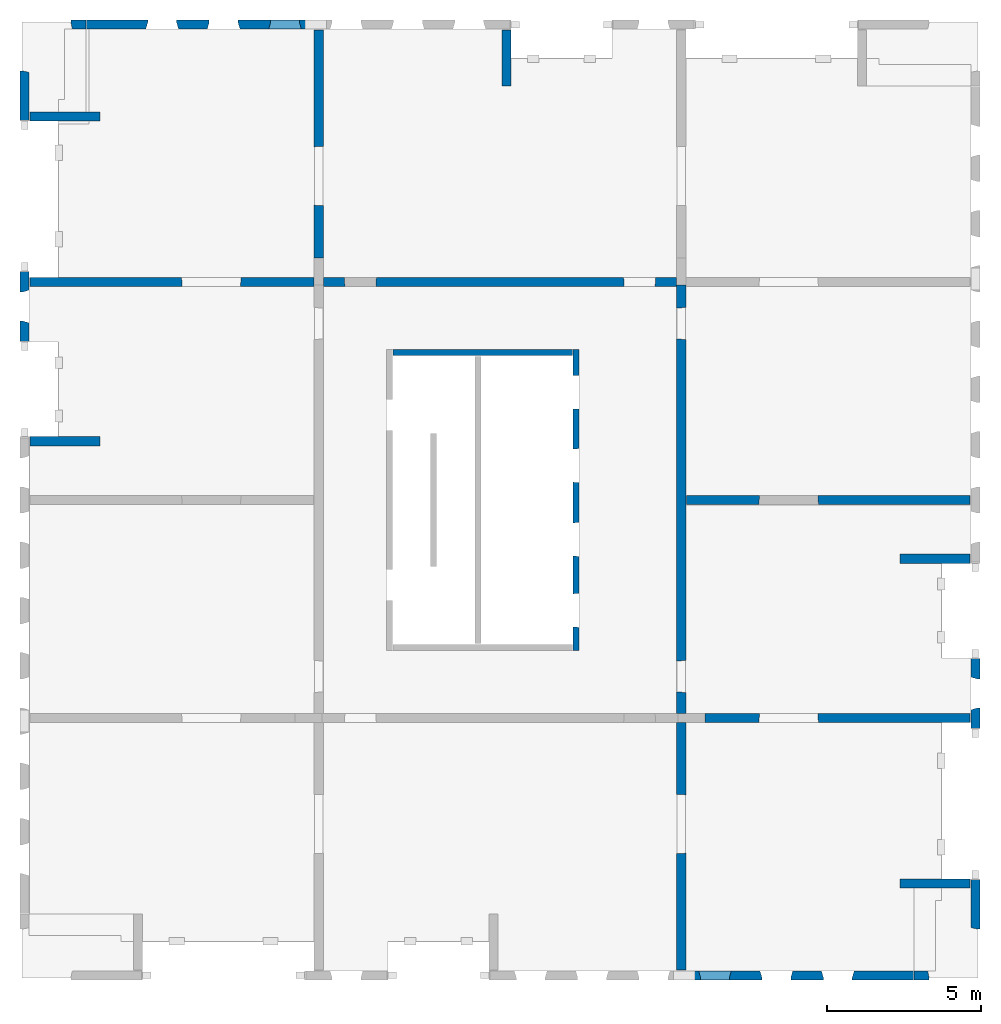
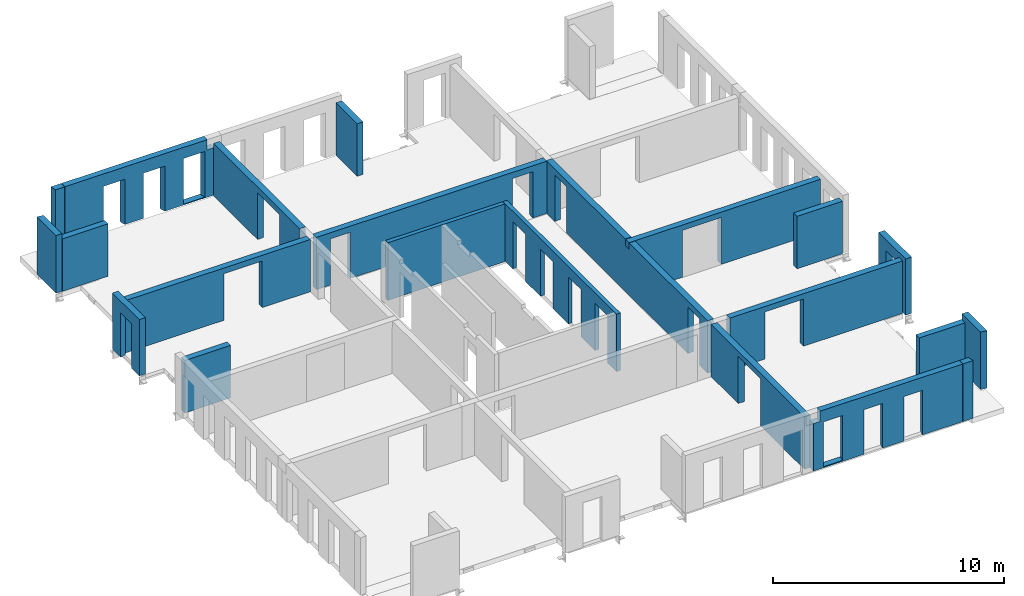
# One storey, part 3 of 5: 22 walls, 29 openings.
"""IFC2X3 building model written with IfcOpenShell, lengths in millimetres."""

from ifc_helpers import new_model, entity, si_unit, converted_unit, derived_unit, direction, frame, frame_2d, origin, origin_2d_with_axis, place, context, subcontext, project, spatial, rectangle, extrude, faceted_brep, material, layer, layer_set, layer_usage, type_object, element, save


model = new_model("IFC2X3")

# Units and contexts
model_context = context("Model", 3, precision=0.01, world=origin(), true_north=direction((6.12303176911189e-17, 1.0)))
body_context = subcontext(model_context, "Body", "Model", "MODEL_VIEW")
ifc_project = project(units=[si_unit("LENGTHUNIT", "METRE", prefix="MILLI"), si_unit("AREAUNIT", "SQUARE_METRE"), si_unit("VOLUMEUNIT", "CUBIC_METRE"), converted_unit("PLANEANGLEUNIT", "DEGREE", entity("IfcRatioMeasure", 0.0174532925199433), si_unit("PLANEANGLEUNIT", "RADIAN"), dimensions=[0, 0, 0, 0, 0, 0, 0]), si_unit("MASSUNIT", "GRAM", prefix="KILO"), derived_unit("MASSDENSITYUNIT", [(si_unit("MASSUNIT", "GRAM", prefix="KILO"), 1), (si_unit("LENGTHUNIT", "METRE"), -3)]), si_unit("TIMEUNIT", "SECOND"), si_unit("FREQUENCYUNIT", "HERTZ"), si_unit("THERMODYNAMICTEMPERATUREUNIT", "DEGREE_CELSIUS"), derived_unit("THERMALTRANSMITTANCEUNIT", [(si_unit("MASSUNIT", "GRAM", prefix="KILO"), 1), (si_unit("THERMODYNAMICTEMPERATUREUNIT", "KELVIN"), -1), (si_unit("TIMEUNIT", "SECOND"), -3)]), derived_unit("VOLUMETRICFLOWRATEUNIT", [(si_unit("LENGTHUNIT", "METRE"), 3), (si_unit("TIMEUNIT", "SECOND"), -1)]), si_unit("ELECTRICCURRENTUNIT", "AMPERE"), si_unit("ELECTRICVOLTAGEUNIT", "VOLT"), si_unit("POWERUNIT", "WATT"), si_unit("FORCEUNIT", "NEWTON", prefix="KILO"), si_unit("ILLUMINANCEUNIT", "LUX"), si_unit("LUMINOUSFLUXUNIT", "LUMEN"), si_unit("LUMINOUSINTENSITYUNIT", "CANDELA"), derived_unit("USERDEFINED", [(si_unit("MASSUNIT", "GRAM", prefix="KILO"), -1), (si_unit("LENGTHUNIT", "METRE"), -2), (si_unit("TIMEUNIT", "SECOND"), 3), (si_unit("LUMINOUSFLUXUNIT", "LUMEN"), 1)]), derived_unit("LINEARVELOCITYUNIT", [(si_unit("LENGTHUNIT", "METRE"), 1), (si_unit("TIMEUNIT", "SECOND"), -1)]), si_unit("PRESSUREUNIT", "PASCAL"), derived_unit("USERDEFINED", [(si_unit("LENGTHUNIT", "METRE"), -2), (si_unit("MASSUNIT", "GRAM", prefix="KILO"), 1), (si_unit("TIMEUNIT", "SECOND"), -2)])], contexts=[model_context])

# Site, building, storey
site_placement = place(None, origin())
site = spatial("IfcSite", under=ifc_project, at=site_placement, Name="Default", CompositionType="ELEMENT")
building_placement = place(site_placement, origin())
building = spatial("IfcBuilding", under=site, at=building_placement, Name="niet gebruiken", CompositionType="ELEMENT")
storey_placement = place(building_placement, frame((0.0, 0.0, 158760.0)))
storey = spatial("IfcBuildingStorey", under=building, at=storey_placement, Name="51 eenenvijftigste verdieping", CompositionType="ELEMENT", Elevation=158760.0)

# Wall, openings
ifc_material = material(Name="NLRS_f2_beton prefab")
ifc_layer_1 = layer(ifc_material, 200.0)
ifc_layer_set_1 = layer_set([ifc_layer_1], Name="Basic Wall:NLRS_22.21_WA_beton prefab d=200_gen")
ifc_layer_usage_1 = layer_usage(ifc_layer_set_1, "AXIS2", "NEGATIVE", 100.0)
wall_type_1 = type_object("IfcWallType", Name="Basic Wall:NLRS_22.21_WA_beton prefab d=200_gen", PredefinedType="STANDARD", material=ifc_layer_set_1)
wall_1_placement = place(storey_placement, frame((144230.0, 22400.0, -50.0), z_axis=(0.0, 0.0, 1.0), x_axis=(0.0, -1.0, 0.0)))
wall_1 = element("IfcWallStandardCase", 1, at=wall_1_placement, inside=storey, type_object=wall_type_1, material=ifc_layer_usage_1, Name="Basic Wall:NLRS_22.21_WA_beton prefab d=200_gen", ObjectType="Basic Wall:NLRS_22.21_WA_beton prefab d=200_gen", context=body_context, shape_type="SweptSolid", body=[
    extrude(rectangle(XDim=9800.0, YDim=199.999999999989, at=frame_2d((4900.0, -3.69482222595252e-13), x_axis=(-1.0, 0.0))), origin(), (0.0, 0.0, 1.0), 3040.0),
])
opening_1_placement = place(wall_1_placement, frame((9047.0, -100.0, 0.0)))
element("IfcOpeningElement", 2, at=opening_1_placement, cuts=wall_1, Name="Basic Wall:NLRS_22.21_WA_beton prefab d=200_gen", ObjectType="Opening", context=body_context, shape_type="Brep", body=[
    faceted_brep([(-1104.0, 200.0, 2502.0), (-1104.0, 200.0, 0.0), (-1092.0, 0.0, 0.0), (-1092.0, 0.0, 2490.0), (0.0, 200.0, 0.0), (-12.0, 0.0, 0.0), (-12.0, 0.0, 2490.0), (0.0, 200.0, 2502.0)], [[[0, 1, 2, 3]], [[1, 4, 5, 2]], [[6, 3, 2, 5]], [[7, 4, 1, 0]], [[7, 0, 3, 6]], [[4, 7, 6, 5]]]),
])
opening_2_placement = place(wall_1_placement, frame((6737.0, -100.0, 0.0)))
element("IfcOpeningElement", 3, at=opening_2_placement, cuts=wall_1, Name="Basic Wall:NLRS_22.21_WA_beton prefab d=200_gen", ObjectType="Opening", context=body_context, shape_type="Brep", body=[
    faceted_brep([(-1104.0, 200.0, 2502.0), (-1104.0, 200.0, 0.0), (-1092.0, 0.0, 0.0), (-1092.0, 0.0, 2490.0), (0.0, 200.0, 0.0), (-12.0, 0.0, 0.0), (-12.0, 0.0, 2490.0), (0.0, 200.0, 2502.0)], [[[0, 1, 2, 3]], [[1, 4, 5, 2]], [[6, 3, 2, 5]], [[7, 4, 1, 0]], [[7, 0, 3, 6]], [[4, 7, 6, 5]]]),
])
opening_3_placement = place(wall_1_placement, frame((4332.0, -100.0, 0.0)))
element("IfcOpeningElement", 4, at=opening_3_placement, cuts=wall_1, Name="Basic Wall:NLRS_22.21_WA_beton prefab d=200_gen", ObjectType="Opening", context=body_context, shape_type="Brep", body=[
    faceted_brep([(-1104.0, 200.0, 2502.0), (-1104.0, 200.0, 0.0), (-1092.0, 0.0, 0.0), (-1092.0, 0.0, 2490.0), (0.0, 200.0, 0.0), (-12.0, 0.0, 0.0), (-12.0, 0.0, 2490.0), (0.0, 200.0, 2502.0)], [[[0, 1, 2, 3]], [[1, 4, 5, 2]], [[6, 3, 2, 5]], [[7, 4, 1, 0]], [[7, 0, 3, 6]], [[4, 7, 6, 5]]]),
])
opening_4_placement = place(wall_1_placement, frame((1942.0, -100.0, 0.0)))
element("IfcOpeningElement", 5, at=opening_4_placement, cuts=wall_1, Name="Basic Wall:NLRS_22.21_WA_beton prefab d=200_gen", ObjectType="Opening", context=body_context, shape_type="Brep", body=[
    faceted_brep([(-1104.0, 200.0, 2502.0), (-1104.0, 200.0, 0.0), (-1092.0, 0.0, 0.0), (-1092.0, 0.0, 2490.0), (0.0, 200.0, 0.0), (-12.0, 0.0, 0.0), (-12.0, 0.0, 2490.0), (0.0, 200.0, 2502.0)], [[[0, 1, 2, 3]], [[1, 4, 5, 2]], [[6, 3, 2, 5]], [[7, 4, 1, 0]], [[7, 0, 3, 6]], [[4, 7, 6, 5]]]),
])

# Wall
ifc_layer_usage_2 = layer_usage(ifc_layer_set_1, "AXIS2", "NEGATIVE", 100.0)
wall_2_placement = place(storey_placement, frame((138270.0, 22300.0, -50.0)))
element("IfcWallStandardCase", 6, at=wall_2_placement, inside=storey, type_object=wall_type_1, material=ifc_layer_usage_2, Name="Basic Wall:NLRS_22.21_WA_beton prefab d=200_gen", ObjectType="Basic Wall:NLRS_22.21_WA_beton prefab d=200_gen", context=body_context, shape_type="SweptSolid", body=[
    extrude(rectangle(XDim=5839.99999999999, YDim=199.999999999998, at=frame_2d((2919.99999999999, -7.60280727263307e-13), x_axis=(-1.0, 0.0))), origin(), (0.0, 0.0, 1.0), 3040.0),
])

# Wall, opening
ifc_layer_2 = layer(ifc_material, 300.0)
ifc_layer_set_2 = layer_set([ifc_layer_2], Name="Basic Wall:NLRS_22.21_WA_beton prefab d=300_gen")
ifc_layer_usage_3 = layer_usage(ifc_layer_set_2, "AXIS2", "NEGATIVE", 150.0)
wall_type_2 = type_object("IfcWallType", Name="Basic Wall:NLRS_22.21_WA_beton prefab d=300_gen", PredefinedType="STANDARD", material=ifc_layer_set_2)
wall_3_placement = place(storey_placement, frame((147650.0, 10250.0, -60.0), z_axis=(0.0, 0.0, 1.0), x_axis=(0.0, -1.0, 0.0)))
wall_3 = element("IfcWallStandardCase", 7, at=wall_3_placement, inside=storey, type_object=wall_type_2, material=ifc_layer_usage_3, Name="Basic Wall:NLRS_22.21_WA_beton prefab d=300_gen", ObjectType="Basic Wall:NLRS_22.21_WA_beton prefab d=300_gen", context=body_context, shape_type="SweptSolid", body=[
    extrude(rectangle(XDim=8059.99999999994, YDim=300.000000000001, at=frame_2d((4029.99999999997, 3.69482222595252e-13), x_axis=(-1.0, 0.0))), origin(), (0.0, 0.0, 1.0), 2760.0),
])
opening_5_placement = place(wall_3_placement, frame((4268.0, -150.0, -10.0)))
element("IfcOpeningElement", 8, at=opening_5_placement, cuts=wall_3, Name="Basic Wall:NLRS_22.21_WA_beton prefab d=300_gen", ObjectType="Opening", context=body_context, shape_type="Brep", body=[
    faceted_brep([(-18.0, 300.0, 2470.0), (-18.0, 300.0, 0.0), (-1918.0, 300.0, 0.0), (-1918.0, 300.0, 2470.0), (0.0, 0.0, 2488.0), (-1936.0, 0.0, 2488.0), (-1936.0, 0.0, 0.0), (0.0, 0.0, 0.0)], [[[0, 1, 2, 3]], [[4, 5, 6, 7]], [[4, 0, 3, 5]], [[5, 3, 2, 6]], [[6, 2, 1, 7]], [[7, 1, 0, 4]]]),
])

ifc_layer_usage_4 = layer_usage(ifc_layer_set_2, "AXIS2", "NEGATIVE", 150.0)
wall_4_placement = place(storey_placement, frame((157230.0, 12360.0, -50.0), z_axis=(0.0, 0.0, 1.0), x_axis=(0.0, -1.0, 0.0)))
wall_4 = element("IfcWallStandardCase", 9, at=wall_4_placement, inside=storey, type_object=wall_type_2, material=ifc_layer_usage_4, Name="Basic Wall:NLRS_22.21_WA_beton prefab d=300_gen", ObjectType="Basic Wall:NLRS_22.21_WA_beton prefab d=300_gen", context=body_context, shape_type="SweptSolid", body=[
    extrude(rectangle(XDim=2320.00000000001, YDim=300.000000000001, at=frame_2d((1160.0, -8.38440428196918e-12), x_axis=(-1.0, 0.0))), origin(), (0.0, 0.0, 1.0), 2970.00000000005),
])
opening_6_placement = place(wall_4_placement, frame((1695.0, -150.0, -20.0)))
element("IfcOpeningElement", 10, at=opening_6_placement, cuts=wall_4, Name="Basic Wall:NLRS_22.21_WA_beton prefab d=300_gen", ObjectType="Opening", context=body_context, shape_type="Brep", body=[
    faceted_brep([(-1070.0, 0.0, 2405.0), (-1070.0, 0.0, 0.0), (0.0, 0.0, 0.0), (0.0, 0.0, 2405.0), (-65.0, 219.0, 2370.0), (-1005.0, 219.0, 2370.0), (-65.0, 219.0, 0.0), (-1005.0, 219.0, 0.0), (-1005.0, 300.0, 0.0), (-65.0, 300.0, 0.0), (-1005.0, 300.0, 2370.0), (-65.0, 300.0, 2370.0)], [[[0, 1, 2, 3]], [[3, 4, 5, 0]], [[2, 6, 4, 3]], [[1, 7, 8, 9, 6, 2]], [[0, 5, 7, 1]], [[10, 11, 9, 8]], [[10, 5, 4, 11]], [[11, 4, 6, 9]], [[8, 7, 5, 10]]]),
])

ifc_layer_usage_5 = layer_usage(ifc_layer_set_2, "AXIS2", "NEGATIVE", 150.0)
wall_5_placement = place(storey_placement, frame((126270.0, 22640.0, -50.0), z_axis=(0.0, 0.0, 1.0), x_axis=(0.0, 1.0, 0.0)))
wall_5 = element("IfcWallStandardCase", 11, at=wall_5_placement, inside=storey, type_object=wall_type_2, material=ifc_layer_usage_5, Name="Basic Wall:NLRS_22.21_WA_beton prefab d=300_gen", ObjectType="Basic Wall:NLRS_22.21_WA_beton prefab d=300_gen", context=body_context, shape_type="SweptSolid", body=[
    extrude(rectangle(XDim=2320.00000000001, YDim=300.000000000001, at=frame_2d((1160.0, -3.60955709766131e-12), x_axis=(-1.0, 0.0))), origin(), (0.0, 0.0, 1.0), 2970.00000000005),
])
opening_7_placement = place(wall_5_placement, frame((625.0, 150.0, -20.0)))
element("IfcOpeningElement", 12, at=opening_7_placement, cuts=wall_5, Name="Basic Wall:NLRS_22.21_WA_beton prefab d=300_gen", ObjectType="Opening", context=body_context, shape_type="Brep", body=[
    faceted_brep([(0.0, -300.0, 2405.0), (0.0, -300.0, 0.0), (1070.0, -300.0, 0.0), (1070.0, -300.0, 2405.0), (1005.0, -81.0, 2370.0), (65.0, -81.0, 2370.0), (1005.0, -81.0, 0.0), (65.0, -81.0, 0.0), (65.0, 0.0, 0.0), (1005.0, 0.0, 0.0), (65.0, 0.0, 2370.0), (1005.0, 0.0, 2370.0)], [[[0, 1, 2, 3]], [[3, 4, 5, 0]], [[2, 6, 4, 3]], [[1, 7, 8, 9, 6, 2]], [[0, 5, 7, 1]], [[10, 11, 9, 8]], [[10, 5, 4, 11]], [[11, 4, 6, 9]], [[8, 7, 5, 10]]]),
])

# Wall, openings
ifc_layer_usage_6 = layer_usage(ifc_layer_set_2, "AXIS2", "NEGATIVE", 150.0)
wall_6_placement = place(storey_placement, frame((157060.0, 17500.0, -60.0), z_axis=(0.0, 0.0, 1.0), x_axis=(-1.0, 0.0, 0.0)))
wall_6 = element("IfcWallStandardCase", 13, at=wall_6_placement, inside=storey, type_object=wall_type_2, material=ifc_layer_usage_6, Name="Basic Wall:NLRS_22.21_WA_beton prefab d=300_gen", ObjectType="Basic Wall:NLRS_22.21_WA_beton prefab d=300_gen", context=body_context, shape_type="SweptSolid", body=[
    extrude(rectangle(XDim=9559.9999999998, YDim=300.000000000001, at=frame_2d((4779.9999999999, -1.84741111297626e-13), x_axis=(-1.0, 0.0))), origin(), (0.0, 0.0, 1.0), 2760.0),
])
opening_8_placement = place(wall_6_placement, frame((6878.0, 150.0, -10.0)))
element("IfcOpeningElement", 14, at=opening_8_placement, cuts=wall_6, Name="Basic Wall:NLRS_22.21_WA_beton prefab d=300_gen", ObjectType="Opening", context=body_context, shape_type="Brep", body=[
    faceted_brep([(-18.0, -300.0, 2470.0), (-1918.0, -300.0, 2470.0), (-1918.0, -300.0, 0.0), (-18.0, -300.0, 0.0), (0.0, 0.0, 2488.0), (0.0, 0.0, 0.0), (-1936.0, 0.0, 0.0), (-1936.0, 0.0, 2488.0)], [[[0, 1, 2, 3]], [[4, 5, 6, 7]], [[4, 7, 1, 0]], [[7, 6, 2, 1]], [[6, 5, 3, 2]], [[5, 4, 0, 3]]]),
])
opening_9_placement = place(wall_6_placement, origin())
element("IfcOpeningElement", 15, at=opening_9_placement, cuts=wall_6, Name="Basic Wall:NLRS_22.21_WA_beton prefab d=300_gen", ObjectType="Opening", context=body_context, shape_type="SweptSolid", body=[
    extrude(rectangle(XDim=2429.99999999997, YDim=319.999999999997, at=frame_2d((0.0, 0.0), x_axis=(0.0, 1.0))), frame((9400.0, 150.0, 1215.0), z_axis=(0.0, -1.0, 0.0), x_axis=(1.0, 0.0, 0.0)), (0.0, 0.0, 1.0), 300.0),
])

# Wall, opening
ifc_layer_usage_7 = layer_usage(ifc_layer_set_2, "AXIS2", "NEGATIVE", 150.0)
wall_7_placement = place(storey_placement, frame((135700.0, 24600.0, -60.0), z_axis=(0.0, 0.0, 1.0), x_axis=(-1.0, 0.0, 0.0)))
wall_7 = element("IfcWallStandardCase", 16, at=wall_7_placement, inside=storey, type_object=wall_type_2, material=ifc_layer_usage_7, Name="Basic Wall:NLRS_22.21_WA_beton prefab d=300_gen", ObjectType="Basic Wall:NLRS_22.21_WA_beton prefab d=300_gen", context=body_context, shape_type="SweptSolid", body=[
    extrude(rectangle(XDim=9259.99999999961, YDim=300.000000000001, at=frame_2d((4629.99999999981, -2.41584530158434e-13), x_axis=(-1.0, 0.0))), origin(), (0.0, 0.0, 1.0), 2760.0),
])
opening_10_placement = place(wall_7_placement, frame((4318.0, 150.0, -10.0)))
element("IfcOpeningElement", 17, at=opening_10_placement, cuts=wall_7, Name="Basic Wall:NLRS_22.21_WA_beton prefab d=300_gen", ObjectType="Opening", context=body_context, shape_type="Brep", body=[
    faceted_brep([(-1918.0, 0.0, 2470.0), (-18.0, 0.0, 2470.0), (-18.0, 0.0, 0.0), (-1918.0, 0.0, 0.0), (-1936.0, -300.0, 2488.0), (-1936.0, -300.0, 0.0), (0.0, -300.0, 0.0), (0.0, -300.0, 2488.0)], [[[0, 1, 2, 3]], [[4, 5, 6, 7]], [[4, 7, 1, 0]], [[7, 6, 2, 1]], [[6, 5, 3, 2]], [[5, 4, 0, 3]]]),
])

ifc_layer_usage_8 = layer_usage(ifc_layer_set_2, "AXIS2", "NEGATIVE", 150.0)
wall_8_placement = place(storey_placement, frame((148430.0, 10400.0, -70.0)))
wall_8 = element("IfcWallStandardCase", 18, at=wall_8_placement, inside=storey, type_object=wall_type_2, material=ifc_layer_usage_8, Name="Basic Wall:NLRS_22.21_WA_beton prefab d=300_gen", ObjectType="Basic Wall:NLRS_22.21_WA_beton prefab d=300_gen", context=body_context, shape_type="SweptSolid", body=[
    extrude(rectangle(XDim=8630.00000000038, YDim=300.000000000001, at=frame_2d((4315.00000000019, 0.0), x_axis=(-1.0, 0.0))), origin(), (0.0, 0.0, 1.0), 2769.99999999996),
])
opening_11_placement = place(wall_8_placement, frame((1752.0, -150.0, 0.0)))
element("IfcOpeningElement", 19, at=opening_11_placement, cuts=wall_8, Name="Basic Wall:NLRS_22.21_WA_beton prefab d=300_gen", ObjectType="Opening", context=body_context, shape_type="Brep", body=[
    faceted_brep([(18.0, 300.0, 2470.0), (1918.0, 300.0, 2470.0), (1918.0, 300.0, 0.0), (18.0, 300.0, 0.0), (0.0, 0.0, 2488.0), (0.0, 0.0, 0.0), (1936.0, 0.0, 0.0), (1936.0, 0.0, 2488.0)], [[[0, 1, 2, 3]], [[4, 5, 6, 7]], [[4, 7, 1, 0]], [[7, 6, 2, 1]], [[6, 5, 3, 2]], [[5, 4, 0, 3]]]),
])

ifc_layer_usage_9 = layer_usage(ifc_layer_set_2, "AXIS2", "NEGATIVE", 150.0)
wall_9_placement = place(storey_placement, frame((135850.0, 25380.0, -70.0), z_axis=(0.0, 0.0, 1.0), x_axis=(0.0, 1.0, 0.0)))
wall_9 = element("IfcWallStandardCase", 20, at=wall_9_placement, inside=storey, type_object=wall_type_2, material=ifc_layer_usage_9, Name="Basic Wall:NLRS_22.21_WA_beton prefab d=300_gen", ObjectType="Basic Wall:NLRS_22.21_WA_beton prefab d=300_gen", context=body_context, shape_type="SweptSolid", body=[
    extrude(rectangle(XDim=7430.00000000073, YDim=300.000000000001, at=frame_2d((3715.00000000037, -5.62749846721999e-12), x_axis=(-1.0, 0.0))), origin(), (0.0, 0.0, 1.0), 2769.99999999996),
])
opening_12_placement = place(wall_9_placement, frame((1702.0, 150.0, 0.0)))
element("IfcOpeningElement", 21, at=opening_12_placement, cuts=wall_9, Name="Basic Wall:NLRS_22.21_WA_beton prefab d=300_gen", ObjectType="Opening", context=body_context, shape_type="Brep", body=[
    faceted_brep([(1918.0, 0.0, 2470.0), (1918.0, 0.0, 0.0), (18.0, 0.0, 0.0), (18.0, 0.0, 2470.0), (1936.0, -300.0, 2488.0), (0.0, -300.0, 2488.0), (0.0, -300.0, 0.0), (1936.0, -300.0, 0.0)], [[[0, 1, 2, 3]], [[4, 5, 6, 7]], [[4, 0, 3, 5]], [[5, 3, 2, 6]], [[6, 2, 1, 7]], [[7, 1, 0, 4]]]),
])

# Wall, openings
ifc_layer_usage_10 = layer_usage(ifc_layer_set_2, "AXIS2", "NEGATIVE", 150.0)
wall_10_placement = place(storey_placement, frame((147650.0, 24500.0, -60.0), z_axis=(0.0, 0.0, 1.0), x_axis=(0.0, -1.0, 0.0)))
wall_10 = element("IfcWallStandardCase", 22, at=wall_10_placement, inside=storey, type_object=wall_type_2, material=ifc_layer_usage_10, Name="Basic Wall:NLRS_22.21_WA_beton prefab d=300_gen", ObjectType="Basic Wall:NLRS_22.21_WA_beton prefab d=300_gen", context=body_context, shape_type="SweptSolid", body=[
    extrude(rectangle(XDim=13949.9999999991, YDim=300.000000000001, at=frame_2d((6974.99999999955, 4.2632564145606e-14), x_axis=(-1.0, 0.0))), origin(), (0.0, 0.0, 1.0), 2760.0),
])
opening_13_placement = place(wall_10_placement, frame((13268.0, -150.0, -10.0)))
element("IfcOpeningElement", 23, at=opening_13_placement, cuts=wall_10, Name="Basic Wall:NLRS_22.21_WA_beton prefab d=300_gen", ObjectType="Opening", context=body_context, shape_type="Brep", body=[
    faceted_brep([(-1042.0, 300.0, 2466.0), (-1042.0, 300.0, 0.0), (-1024.0, 0.0, 0.0), (-1024.0, 0.0, 2448.0), (0.0, 300.0, 0.0), (-18.0, 0.0, 0.0), (-18.0, 0.0, 2448.0), (0.0, 300.0, 2466.0)], [[[0, 1, 2, 3]], [[1, 4, 5, 2]], [[6, 3, 2, 5]], [[7, 4, 1, 0]], [[7, 0, 3, 6]], [[4, 7, 6, 5]]]),
])
opening_14_placement = place(wall_10_placement, frame((1774.0, -150.0, -10.0)))
element("IfcOpeningElement", 24, at=opening_14_placement, cuts=wall_10, Name="Basic Wall:NLRS_22.21_WA_beton prefab d=300_gen", ObjectType="Opening", context=body_context, shape_type="Brep", body=[
    faceted_brep([(-1042.0, 300.0, 2466.0), (-1042.0, 300.0, 0.0), (-1024.0, 0.0, 0.0), (-1024.0, 0.0, 2448.0), (0.0, 300.0, 0.0), (-18.0, 0.0, 0.0), (-18.0, 0.0, 2448.0), (0.0, 300.0, 2466.0)], [[[0, 1, 2, 3]], [[1, 4, 5, 2]], [[6, 3, 2, 5]], [[7, 4, 1, 0]], [[7, 0, 3, 6]], [[4, 7, 6, 5]]]),
])
opening_15_placement = place(wall_10_placement, origin())
element("IfcOpeningElement", 25, at=opening_15_placement, cuts=wall_10, Name="Basic Wall:NLRS_22.21_WA_beton prefab d=300_gen", ObjectType="Opening", context=body_context, shape_type="SweptSolid", body=[
    extrude(rectangle(XDim=350.000000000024, YDim=340.000000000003, at=frame_2d((-1.08002495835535e-12, 0.0), x_axis=(0.0, 1.0))), frame((7000.0, 150.0, 2585.0), z_axis=(0.0, -1.0, 0.0), x_axis=(-1.0, 0.0, 0.0)), (0.0, 0.0, 1.0), 300.0),
])

ifc_layer_usage_11 = layer_usage(ifc_layer_set_2, "AXIS2", "NEGATIVE", 150.0)
wall_11_placement = place(storey_placement, frame((136000.0, 24600.0, -60.0)))
wall_11 = element("IfcWallStandardCase", 26, at=wall_11_placement, inside=storey, type_object=wall_type_2, material=ifc_layer_usage_11, Name="Basic Wall:NLRS_22.21_WA_beton prefab d=300_gen", ObjectType="Basic Wall:NLRS_22.21_WA_beton prefab d=300_gen", context=body_context, shape_type="SweptSolid", body=[
    extrude(rectangle(XDim=11499.9999999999, YDim=300.000000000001, at=frame_2d((5749.99999999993, -1.08002495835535e-12), x_axis=(-1.0, 0.0))), origin(), (0.0, 0.0, 1.0), 2760.0),
])
opening_16_placement = place(wall_11_placement, frame((682.0, -150.0, -10.0)))
element("IfcOpeningElement", 27, at=opening_16_placement, cuts=wall_11, Name="Basic Wall:NLRS_22.21_WA_beton prefab d=300_gen", ObjectType="Opening", context=body_context, shape_type="Brep", body=[
    faceted_brep([(0.0, 300.0, 2466.0), (0.0, 300.0, 0.0), (18.0, 0.0, 0.0), (18.0, 0.0, 2448.0), (1042.0, 300.0, 0.0), (1024.0, 0.0, 0.0), (1024.0, 0.0, 2448.0), (1042.0, 300.0, 2466.0)], [[[0, 1, 2, 3]], [[1, 4, 5, 2]], [[6, 3, 2, 5]], [[7, 4, 1, 0]], [[7, 0, 3, 6]], [[4, 7, 6, 5]]]),
])
opening_17_placement = place(wall_11_placement, frame((9776.0, -150.0, -10.0)))
element("IfcOpeningElement", 28, at=opening_17_placement, cuts=wall_11, Name="Basic Wall:NLRS_22.21_WA_beton prefab d=300_gen", ObjectType="Opening", context=body_context, shape_type="Brep", body=[
    faceted_brep([(0.0, 300.0, 2466.0), (0.0, 300.0, 0.0), (18.0, 0.0, 0.0), (18.0, 0.0, 2448.0), (1042.0, 300.0, 0.0), (1024.0, 0.0, 0.0), (1024.0, 0.0, 2448.0), (1042.0, 300.0, 2466.0)], [[[0, 1, 2, 3]], [[1, 4, 5, 2]], [[6, 3, 2, 5]], [[7, 4, 1, 0]], [[7, 0, 3, 6]], [[4, 7, 6, 5]]]),
])

# Walls
ifc_layer_usage_12 = layer_usage(ifc_layer_set_2, "AXIS2", "NEGATIVE", 150.0)
wall_12_placement = place(storey_placement, frame((128720.0, 29990.0, -70.0), z_axis=(0.0, 0.0, 1.0), x_axis=(-1.0, 0.0, 0.0)))
element("IfcWallStandardCase", 29, at=wall_12_placement, inside=storey, type_object=wall_type_2, material=ifc_layer_usage_12, Name="Basic Wall:NLRS_22.21_WA_beton prefab d=300_gen", ObjectType="Basic Wall:NLRS_22.21_WA_beton prefab d=300_gen", context=body_context, shape_type="SweptSolid", body=[
    extrude(rectangle(XDim=2279.99999999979, YDim=300.000000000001, at=frame_2d((1139.9999999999, -1.30739863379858e-12), x_axis=(-1.0, 0.0))), origin(), (0.0, 0.0, 1.0), 2769.99999999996),
])
ifc_layer_usage_13 = layer_usage(ifc_layer_set_2, "AXIS2", "NEGATIVE", 150.0)
wall_13_placement = place(storey_placement, frame((157060.0, 5010.0, -70.0), z_axis=(0.0, 0.0, 1.0), x_axis=(-1.0, 0.0, 0.0)))
element("IfcWallStandardCase", 30, at=wall_13_placement, inside=storey, type_object=wall_type_2, material=ifc_layer_usage_13, Name="Basic Wall:NLRS_22.21_WA_beton prefab d=300_gen", ObjectType="Basic Wall:NLRS_22.21_WA_beton prefab d=300_gen", context=body_context, shape_type="SweptSolid", body=[
    extrude(rectangle(XDim=2280.00000000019, YDim=300.0, at=frame_2d((1140.0000000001, 3.12638803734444e-13), x_axis=(-1.0, 0.0))), origin(), (0.0, 0.0, 1.0), 2769.99999999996),
])
ifc_layer_usage_14 = layer_usage(ifc_layer_set_2, "AXIS2", "NEGATIVE", 150.0)
wall_14_placement = place(storey_placement, frame((141960.0, 32810.0, -70.0), z_axis=(0.0, 0.0, 1.0), x_axis=(0.0, -1.0, 0.0)))
element("IfcWallStandardCase", 31, at=wall_14_placement, inside=storey, type_object=wall_type_2, material=ifc_layer_usage_14, Name="Basic Wall:NLRS_22.21_WA_beton prefab d=300_gen", ObjectType="Basic Wall:NLRS_22.21_WA_beton prefab d=300_gen", context=body_context, shape_type="SweptSolid", body=[
    extrude(rectangle(XDim=1829.99999999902, YDim=300.000000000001, at=frame_2d((914.99999999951, -2.07478478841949e-12), x_axis=(-1.0, 0.0))), origin(), (0.0, 0.0, 1.0), 2769.99999999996),
])
ifc_layer_usage_15 = layer_usage(ifc_layer_set_2, "AXIS2", "NEGATIVE", 150.0)
wall_15_placement = place(storey_placement, frame((157060.0, 15590.0, -70.0), z_axis=(0.0, 0.0, 1.0), x_axis=(-1.0, 0.0, 0.0)))
element("IfcWallStandardCase", 32, at=wall_15_placement, inside=storey, type_object=wall_type_2, material=ifc_layer_usage_15, Name="Basic Wall:NLRS_22.21_WA_beton prefab d=300_gen", ObjectType="Basic Wall:NLRS_22.21_WA_beton prefab d=300_gen", context=body_context, shape_type="SweptSolid", body=[
    extrude(rectangle(XDim=2280.00000000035, YDim=300.000000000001, at=frame_2d((1140.00000000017, -2.27373675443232e-13), x_axis=(-1.0, 0.0))), origin(), (0.0, 0.0, 1.0), 2769.99999999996),
])
ifc_layer_usage_16 = layer_usage(ifc_layer_set_2, "AXIS2", "NEGATIVE", 150.0)
wall_16_placement = place(storey_placement, frame((128720.0, 19410.0, -70.0), z_axis=(0.0, 0.0, 1.0), x_axis=(-1.0, 0.0, 0.0)))
element("IfcWallStandardCase", 33, at=wall_16_placement, inside=storey, type_object=wall_type_2, material=ifc_layer_usage_16, Name="Basic Wall:NLRS_22.21_WA_beton prefab d=300_gen", ObjectType="Basic Wall:NLRS_22.21_WA_beton prefab d=300_gen", context=body_context, shape_type="SweptSolid", body=[
    extrude(rectangle(XDim=2279.99999999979, YDim=300.000000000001, at=frame_2d((1139.9999999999, 3.01270119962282e-12), x_axis=(-1.0, 0.0))), origin(), (0.0, 0.0, 1.0), 2770.00000000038),
])

# Wall, openings
ifc_layer_3 = layer(ifc_material, 300.0)
ifc_layer_set_3 = layer_set([ifc_layer_3], Name="Basic Wall:NLRS_21.21_WA_beton prefab d=300/320_gen")
ifc_layer_usage_17 = layer_usage(ifc_layer_set_3, "AXIS2", "NEGATIVE", 150.0)
wall_type_3 = type_object("IfcWallType", Name="Basic Wall:NLRS_21.21_WA_beton prefab d=300/320_gen", PredefinedType="STANDARD", material=ifc_layer_set_3)
wall_17_placement = place(storey_placement, frame((128290.0, 32980.0, -50.0)))
wall_17 = element("IfcWallStandardCase", 34, at=wall_17_placement, inside=storey, type_object=wall_type_3, material=ifc_layer_usage_17, Name="Basic Wall:NLRS_21.21_WA_beton prefab d=300/320_gen", ObjectType="Basic Wall:NLRS_21.21_WA_beton prefab d=300/320_gen", context=body_context, shape_type="SweptSolid", body=[
    extrude(rectangle(XDim=7449.9999999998, YDim=300.000000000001, at=frame_2d((3724.9999999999, 0.0), x_axis=(-1.0, 0.0))), origin(), (0.0, 0.0, 1.0), 3040.0),
])
opening_18_placement = place(wall_17_placement, frame((3925.0, -150.0, -20.0)))
element("IfcOpeningElement", 35, at=opening_18_placement, cuts=wall_17, Name="Basic Wall:NLRS_21.21_WA_beton prefab d=300/320_gen", ObjectType="Opening", context=body_context, shape_type="Brep", body=[
    faceted_brep([(1070.0, 0.0, 2405.0), (0.0, 0.0, 2405.0), (0.0, 0.0, 0.0), (1070.0, 0.0, 0.0), (1005.0, 219.0, 2370.0), (65.0, 219.0, 2370.0), (65.0, 219.0, 0.0), (65.0, 300.0, 0.0), (1005.0, 300.0, 0.0), (1005.0, 219.0, 0.0), (1005.0, 300.0, 2370.0), (65.0, 300.0, 2370.0)], [[[0, 1, 2, 3]], [[1, 0, 4, 5]], [[2, 1, 5, 6]], [[3, 2, 6, 7, 8, 9]], [[0, 3, 9, 4]], [[10, 8, 7, 11]], [[10, 11, 5, 4]], [[11, 7, 6, 5]], [[8, 10, 4, 9]]]),
])
opening_19_placement = place(wall_17_placement, frame((1925.0, -150.0, -20.0)))
element("IfcOpeningElement", 36, at=opening_19_placement, cuts=wall_17, Name="Basic Wall:NLRS_21.21_WA_beton prefab d=300/320_gen", ObjectType="Opening", context=body_context, shape_type="Brep", body=[
    faceted_brep([(1070.0, 0.0, 2405.0), (0.0, 0.0, 2405.0), (0.0, 0.0, 0.0), (1070.0, 0.0, 0.0), (1005.0, 219.0, 2370.0), (65.0, 219.0, 2370.0), (65.0, 219.0, 0.0), (65.0, 300.0, 0.0), (1005.0, 300.0, 0.0), (1005.0, 219.0, 0.0), (1005.0, 300.0, 2370.0), (65.0, 300.0, 2370.0)], [[[0, 1, 2, 3]], [[1, 0, 4, 5]], [[2, 1, 5, 6]], [[3, 2, 6, 7, 8, 9]], [[0, 3, 9, 4]], [[10, 8, 7, 11]], [[10, 11, 5, 4]], [[11, 7, 6, 5]], [[8, 10, 4, 9]]]),
])
opening_20_placement = place(wall_17_placement, frame((5925.0, -150.0, 50.0)))
element("IfcOpeningElement", 37, at=opening_20_placement, cuts=wall_17, Name="Basic Wall:NLRS_21.21_WA_beton prefab d=300/320_gen", ObjectType="Opening", context=body_context, shape_type="Brep", body=[
    faceted_brep([(1070.0, 0.0, 2405.0), (0.0, 0.0, 2405.0), (0.0, 0.0, 0.0), (1070.0, 0.0, 0.0), (1005.0, 219.0, 2370.0), (65.0, 219.0, 2370.0), (65.0, 219.0, 0.0), (65.0, 300.0, 0.0), (1005.0, 300.0, 0.0), (1005.0, 219.0, 0.0), (1005.0, 300.0, 2370.0), (65.0, 300.0, 2370.0)], [[[0, 1, 2, 3]], [[1, 0, 4, 5]], [[2, 1, 5, 6]], [[3, 2, 6, 7, 8, 9]], [[0, 3, 9, 4]], [[10, 8, 7, 11]], [[10, 11, 5, 4]], [[11, 7, 6, 5]], [[8, 10, 4, 9]]]),
])
opening_21_placement = place(wall_17_placement, origin())
element("IfcOpeningElement", 38, at=opening_21_placement, cuts=wall_17, Name="Basic Wall:NLRS_21.21_WA_beton prefab d=300/320_gen", ObjectType="Opening", context=body_context, shape_type="SweptSolid", body=[
    extrude(rectangle(XDim=535.0, YDim=344.999999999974, at=origin_2d_with_axis()), frame((7277.49999999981, 150.0, 2772.5), z_axis=(0.0, -1.0, 0.0), x_axis=(0.0, 0.0, 1.0)), (0.0, 0.0, 1.0), 300.0),
])

ifc_layer_usage_18 = layer_usage(ifc_layer_set_3, "AXIS2", "NEGATIVE", 150.0)
wall_18_placement = place(storey_placement, frame((155210.0, 2020.0, -50.0), z_axis=(0.0, 0.0, 1.0), x_axis=(-1.0, 0.0, 0.0)))
wall_18 = element("IfcWallStandardCase", 39, at=wall_18_placement, inside=storey, type_object=wall_type_3, material=ifc_layer_usage_18, Name="Basic Wall:NLRS_21.21_WA_beton prefab d=300/320_gen", ObjectType="Basic Wall:NLRS_21.21_WA_beton prefab d=300/320_gen", context=body_context, shape_type="SweptSolid", body=[
    extrude(rectangle(XDim=7449.99999999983, YDim=300.0, at=frame_2d((3724.99999999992, 5.6843418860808e-14), x_axis=(-1.0, 0.0))), origin(), (0.0, 0.0, 1.0), 3040.0),
])
opening_22_placement = place(wall_18_placement, frame((4995.0, 150.0, -20.0)))
element("IfcOpeningElement", 40, at=opening_22_placement, cuts=wall_18, Name="Basic Wall:NLRS_21.21_WA_beton prefab d=300/320_gen", ObjectType="Opening", context=body_context, shape_type="Brep", body=[
    faceted_brep([(0.0, -300.0, 2405.0), (-1070.0, -300.0, 2405.0), (-1070.0, -300.0, 0.0), (0.0, -300.0, 0.0), (-65.0, -81.0, 2370.0), (-1005.0, -81.0, 2370.0), (-1005.0, -81.0, 0.0), (-1005.0, 0.0, 0.0), (-65.0, 0.0, 0.0), (-65.0, -81.0, 0.0), (-65.0, 0.0, 2370.0), (-1005.0, 0.0, 2370.0)], [[[0, 1, 2, 3]], [[1, 0, 4, 5]], [[2, 1, 5, 6]], [[3, 2, 6, 7, 8, 9]], [[0, 3, 9, 4]], [[10, 8, 7, 11]], [[10, 11, 5, 4]], [[11, 7, 6, 5]], [[8, 10, 4, 9]]]),
])
opening_23_placement = place(wall_18_placement, frame((2995.0, 150.0, -20.0)))
element("IfcOpeningElement", 41, at=opening_23_placement, cuts=wall_18, Name="Basic Wall:NLRS_21.21_WA_beton prefab d=300/320_gen", ObjectType="Opening", context=body_context, shape_type="Brep", body=[
    faceted_brep([(0.0, -300.0, 2405.0), (-1070.0, -300.0, 2405.0), (-1070.0, -300.0, 0.0), (0.0, -300.0, 0.0), (-65.0, -81.0, 2370.0), (-1005.0, -81.0, 2370.0), (-1005.0, -81.0, 0.0), (-1005.0, 0.0, 0.0), (-65.0, 0.0, 0.0), (-65.0, -81.0, 0.0), (-65.0, 0.0, 2370.0), (-1005.0, 0.0, 2370.0)], [[[0, 1, 2, 3]], [[1, 0, 4, 5]], [[2, 1, 5, 6]], [[3, 2, 6, 7, 8, 9]], [[0, 3, 9, 4]], [[10, 8, 7, 11]], [[10, 11, 5, 4]], [[11, 7, 6, 5]], [[8, 10, 4, 9]]]),
])
opening_24_placement = place(wall_18_placement, frame((6995.0, 150.0, 50.0)))
element("IfcOpeningElement", 42, at=opening_24_placement, cuts=wall_18, Name="Basic Wall:NLRS_21.21_WA_beton prefab d=300/320_gen", ObjectType="Opening", context=body_context, shape_type="Brep", body=[
    faceted_brep([(0.0, -300.0, 2405.0), (-1070.0, -300.0, 2405.0), (-1070.0, -300.0, 0.0), (0.0, -300.0, 0.0), (-65.0, -81.0, 2370.0), (-1005.0, -81.0, 2370.0), (-1005.0, -81.0, 0.0), (-1005.0, 0.0, 0.0), (-65.0, 0.0, 0.0), (-65.0, -81.0, 0.0), (-65.0, 0.0, 2370.0), (-1005.0, 0.0, 2370.0)], [[[0, 1, 2, 3]], [[1, 0, 4, 5]], [[2, 1, 5, 6]], [[3, 2, 6, 7, 8, 9]], [[0, 3, 9, 4]], [[10, 8, 7, 11]], [[10, 11, 5, 4]], [[11, 7, 6, 5]], [[8, 10, 4, 9]]]),
])
opening_25_placement = place(wall_18_placement, origin())
element("IfcOpeningElement", 43, at=opening_25_placement, cuts=wall_18, Name="Basic Wall:NLRS_21.21_WA_beton prefab d=300/320_gen", ObjectType="Opening", context=body_context, shape_type="SweptSolid", body=[
    extrude(rectangle(XDim=535.0, YDim=344.999999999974, at=origin_2d_with_axis()), frame((7277.49999999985, 150.0, 2772.5), z_axis=(0.0, -1.0, 0.0), x_axis=(0.0, 0.0, 1.0)), (0.0, 0.0, 1.0), 300.0),
])

# Wall, opening
ifc_layer_usage_19 = layer_usage(ifc_layer_set_3, "AXIS2", "NEGATIVE", 150.0)
wall_19_placement = place(storey_placement, frame((127780.0, 32980.0, -50.0)))
wall_19 = element("IfcWallStandardCase", 44, at=wall_19_placement, inside=storey, type_object=wall_type_3, material=ifc_layer_usage_19, Name="Basic Wall:NLRS_21.21_WA_beton prefab d=300/320_gen", ObjectType="Basic Wall:NLRS_21.21_WA_beton prefab d=300/320_gen", context=body_context, shape_type="SweptSolid", body=[
    extrude(rectangle(XDim=489.999999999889, YDim=300.000000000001, at=frame_2d((244.999999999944, -6.67910171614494e-13), x_axis=(-1.0, 0.0))), origin(), (0.0, 0.0, 1.0), 3040.0),
])
opening_26_placement = place(wall_19_placement, frame((0.0, -250.0, 0.0)))
element("IfcOpeningElement", 45, at=opening_26_placement, cuts=wall_19, Name="Basic Wall:NLRS_21.21_WA_beton prefab d=300/320_gen", ObjectType="Opening", context=body_context, shape_type="Brep", body=[
    faceted_brep([(0.0, 0.0, 3040.0), (65.0, 0.0, 3040.0), (0.0, 319.0, 3040.0), (0.0, 0.0, 0.0), (0.0, 319.0, 0.0), (65.0, 0.0, 0.0)], [[[0, 1, 2]], [[3, 4, 5]], [[1, 0, 3, 5]], [[0, 2, 4, 3]], [[2, 1, 5, 4]]]),
])

ifc_layer_usage_20 = layer_usage(ifc_layer_set_3, "AXIS2", "NEGATIVE", 150.0)
wall_20_placement = place(storey_placement, frame((126270.0, 29840.0, -50.0), z_axis=(0.0, 0.0, 1.0), x_axis=(0.0, 1.0, 0.0)))
wall_20 = element("IfcWallStandardCase", 46, at=wall_20_placement, inside=storey, type_object=wall_type_3, material=ifc_layer_usage_20, Name="Basic Wall:NLRS_21.21_WA_beton prefab d=300/320_gen", ObjectType="Basic Wall:NLRS_21.21_WA_beton prefab d=300/320_gen", context=body_context, shape_type="SweptSolid", body=[
    extrude(rectangle(XDim=1629.99999999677, YDim=300.000000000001, at=frame_2d((814.999999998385, 8.95283847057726e-13), x_axis=(-1.0, 0.0))), origin(), (0.0, 0.0, 1.0), 3040.0),
])
opening_27_placement = place(wall_20_placement, frame((1565.0, 69.0, 0.0)))
element("IfcOpeningElement", 47, at=opening_27_placement, cuts=wall_20, Name="Basic Wall:NLRS_21.21_WA_beton prefab d=300/320_gen", ObjectType="Opening", context=body_context, shape_type="Brep", body=[
    faceted_brep([(65.0, -319.0, 3040.0), (65.0, 0.0, 3040.0), (0.0, -319.0, 3040.0), (65.0, -319.0, 0.0), (0.0, -319.0, 0.0), (65.0, 0.0, 0.0)], [[[0, 1, 2]], [[3, 4, 5]], [[2, 4, 3, 0]], [[0, 3, 5, 1]], [[1, 5, 4, 2]]]),
])

ifc_layer_usage_21 = layer_usage(ifc_layer_set_3, "AXIS2", "NEGATIVE", 150.0)
wall_21_placement = place(storey_placement, frame((155720.0, 2020.0, -50.0), z_axis=(0.0, 0.0, 1.0), x_axis=(-1.0, 0.0, 0.0)))
wall_21 = element("IfcWallStandardCase", 48, at=wall_21_placement, inside=storey, type_object=wall_type_3, material=ifc_layer_usage_21, Name="Basic Wall:NLRS_21.21_WA_beton prefab d=300/320_gen", ObjectType="Basic Wall:NLRS_21.21_WA_beton prefab d=300/320_gen", context=body_context, shape_type="SweptSolid", body=[
    extrude(rectangle(XDim=489.999999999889, YDim=300.0, at=frame_2d((244.999999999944, 4.2632564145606e-14), x_axis=(-1.0, 0.0))), origin(), (0.0, 0.0, 1.0), 3040.0),
])
opening_28_placement = place(wall_21_placement, frame((65.0, 69.0, 0.0)))
element("IfcOpeningElement", 49, at=opening_28_placement, cuts=wall_21, Name="Basic Wall:NLRS_21.21_WA_beton prefab d=300/320_gen", ObjectType="Opening", context=body_context, shape_type="Brep", body=[
    faceted_brep([(-65.0, -319.0, 3040.0), (0.0, -319.0, 3040.0), (-65.0, 0.0, 3040.0), (-65.0, -319.0, 0.0), (-65.0, 0.0, 0.0), (0.0, -319.0, 0.0)], [[[0, 1, 2]], [[3, 4, 5]], [[1, 0, 3, 5]], [[0, 2, 4, 3]], [[2, 1, 5, 4]]]),
])

ifc_layer_usage_22 = layer_usage(ifc_layer_set_3, "AXIS2", "NEGATIVE", 150.0)
wall_22_placement = place(storey_placement, frame((157230.0, 5160.0, -50.0), z_axis=(0.0, 0.0, 1.0), x_axis=(0.0, -1.0, 0.0)))
wall_22 = element("IfcWallStandardCase", 50, at=wall_22_placement, inside=storey, type_object=wall_type_3, material=ifc_layer_usage_22, Name="Basic Wall:NLRS_21.21_WA_beton prefab d=300/320_gen", ObjectType="Basic Wall:NLRS_21.21_WA_beton prefab d=300/320_gen", context=body_context, shape_type="SweptSolid", body=[
    extrude(rectangle(XDim=1629.99999999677, YDim=300.000000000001, at=frame_2d((814.999999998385, 4.76063632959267e-12), x_axis=(-1.0, 0.0))), origin(), (0.0, 0.0, 1.0), 3040.0),
])
opening_29_placement = place(wall_22_placement, frame((1630.0, -250.0, 0.0)))
element("IfcOpeningElement", 51, at=opening_29_placement, cuts=wall_22, Name="Basic Wall:NLRS_21.21_WA_beton prefab d=300/320_gen", ObjectType="Opening", context=body_context, shape_type="Brep", body=[
    faceted_brep([(0.0, 0.0, 3040.0), (0.0, 319.0, 3040.0), (-65.0, 0.0, 3040.0), (0.0, 0.0, 0.0), (-65.0, 0.0, 0.0), (0.0, 319.0, 0.0)], [[[0, 1, 2]], [[3, 4, 5]], [[2, 4, 3, 0]], [[0, 3, 5, 1]], [[1, 5, 4, 2]]]),
])

save(model, "model.ifc")
